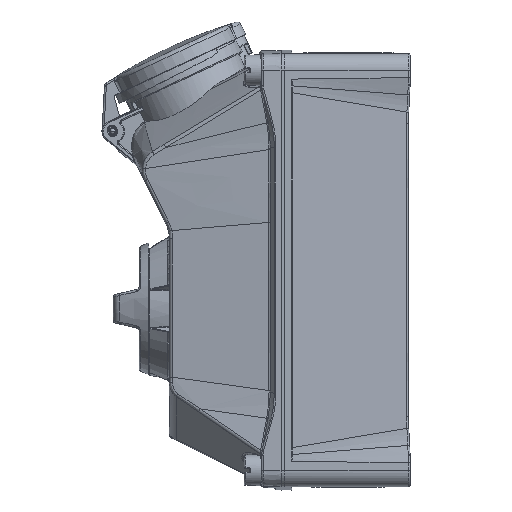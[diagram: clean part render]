
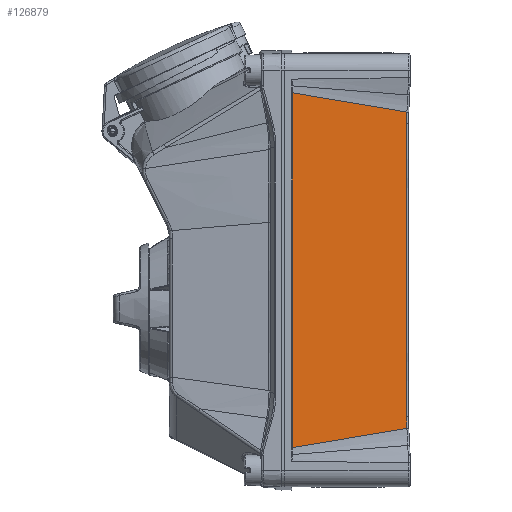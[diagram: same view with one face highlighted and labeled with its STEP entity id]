
A CAD part, left-side view. The second image highlights one B-rep face of the part: STEP entity #126879.
In plain terms, the highlighted free-form (B-spline) face has degree [5, 5] with [6, 6] control points.
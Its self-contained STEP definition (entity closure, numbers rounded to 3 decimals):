
#30424=CARTESIAN_POINT('',(-54.921,0.638,
-82.079));
#30425=CARTESIAN_POINT('',(-55.229,5.784,
-82.813));
#30426=CARTESIAN_POINT('',(-55.815,15.586,
-84.24));
#30427=CARTESIAN_POINT('',(-56.603,28.769,
-86.267));
#30428=CARTESIAN_POINT('',(-57.308,40.559,
-88.217));
#30429=CARTESIAN_POINT('',(-57.933,51.017,
-90.124));
#30430=CARTESIAN_POINT('',(-58.301,57.168,
-91.399));
#30431=CARTESIAN_POINT('',(-58.472,60.031,
-92.044));
#30433=DIRECTION('',(0.,0.,1.));
#30434=VECTOR('',#30433,184.088);
#30435=CARTESIAN_POINT('',(-58.472,60.031,
-92.044));
#30436=LINE('6204',#30435,#30434);
#30437=CARTESIAN_POINT('',(-58.472,60.031,
92.044));
#30438=CARTESIAN_POINT('',(-58.24,56.145,
91.169));
#30439=CARTESIAN_POINT('',(-57.743,47.836,
89.496));
#30440=CARTESIAN_POINT('',(-56.904,33.805,
87.066));
#30441=CARTESIAN_POINT('',(-55.97,18.186,
84.621));
#30442=CARTESIAN_POINT('',(-55.282,6.668,
82.939));
#30443=CARTESIAN_POINT('',(-54.921,0.638,
82.079));
#30445=CARTESIAN_POINT('',(-54.921,0.638,
82.079));
#30446=CARTESIAN_POINT('',(-54.923,0.671,
81.406));
#30447=CARTESIAN_POINT('',(-54.927,0.739,
80.061));
#30448=CARTESIAN_POINT('',(-54.933,0.839,
78.043));
#30449=CARTESIAN_POINT('',(-54.937,0.907,
76.698));
#30450=CARTESIAN_POINT('',(-54.939,0.94,
76.025));
#30452=DIRECTION('',(0.,0.,1.));
#30453=VECTOR('',#30452,152.05);
#30454=CARTESIAN_POINT('',(-54.939,0.94,
-76.025));
#30455=LINE('6263',#30454,#30453);
#30456=CARTESIAN_POINT('',(-54.939,0.94,
-76.025));
#30457=CARTESIAN_POINT('',(-54.937,0.907,
-76.698));
#30458=CARTESIAN_POINT('',(-54.933,0.839,
-78.043));
#30459=CARTESIAN_POINT('',(-54.927,0.739,
-80.061));
#30460=CARTESIAN_POINT('',(-54.923,0.671,
-81.406));
#30461=CARTESIAN_POINT('',(-54.921,0.638,
-82.079));
#57663=VERTEX_POINT('',#30424);
#57664=VERTEX_POINT('',#30431);
#57667=VERTEX_POINT('',#30437);
#57668=VERTEX_POINT('',#30443);
#58475=VERTEX_POINT('',#30450);
#58481=CARTESIAN_POINT('',(-54.939,0.94,
-76.025));
#58482=VERTEX_POINT('',#58481);
#126829=CARTESIAN_POINT('',(-54.883,0.,-86.5));
#126830=CARTESIAN_POINT('',(-55.606,12.1,-87.98));
#126831=CARTESIAN_POINT('',(-56.33,24.2,-89.46));
#126832=CARTESIAN_POINT('',(-57.053,36.3,-90.94));
#126833=CARTESIAN_POINT('',(-57.777,48.4,-92.42));
#126834=CARTESIAN_POINT('',(-58.5,60.5,-93.9));
#126835=CARTESIAN_POINT('',(-54.883,0.,-51.9));
#126836=CARTESIAN_POINT('',(-55.606,12.1,-52.788));
#126837=CARTESIAN_POINT('',(-56.33,24.2,-53.676));
#126838=CARTESIAN_POINT('',(-57.053,36.3,-54.564));
#126839=CARTESIAN_POINT('',(-57.777,48.4,-55.452));
#126840=CARTESIAN_POINT('',(-58.5,60.5,-56.34));
#126841=CARTESIAN_POINT('',(-54.883,0.,-17.3));
#126842=CARTESIAN_POINT('',(-55.606,12.1,-17.596));
#126843=CARTESIAN_POINT('',(-56.33,24.2,-17.892));
#126844=CARTESIAN_POINT('',(-57.053,36.3,-18.188));
#126845=CARTESIAN_POINT('',(-57.777,48.4,-18.484));
#126846=CARTESIAN_POINT('',(-58.5,60.5,-18.78));
#126847=CARTESIAN_POINT('',(-54.883,0.,17.3));
#126848=CARTESIAN_POINT('',(-55.606,12.1,17.596));
#126849=CARTESIAN_POINT('',(-56.33,24.2,17.892));
#126850=CARTESIAN_POINT('',(-57.053,36.3,18.188));
#126851=CARTESIAN_POINT('',(-57.777,48.4,18.484));
#126852=CARTESIAN_POINT('',(-58.5,60.5,18.78));
#126853=CARTESIAN_POINT('',(-54.883,0.,51.9));
#126854=CARTESIAN_POINT('',(-55.606,12.1,52.788));
#126855=CARTESIAN_POINT('',(-56.33,24.2,53.676));
#126856=CARTESIAN_POINT('',(-57.053,36.3,54.564));
#126857=CARTESIAN_POINT('',(-57.777,48.4,55.452));
#126858=CARTESIAN_POINT('',(-58.5,60.5,56.34));
#126859=CARTESIAN_POINT('',(-54.883,0.,86.5));
#126860=CARTESIAN_POINT('',(-55.606,12.1,87.98));
#126861=CARTESIAN_POINT('',(-56.33,24.2,89.46));
#126862=CARTESIAN_POINT('',(-57.053,36.3,90.94));
#126863=CARTESIAN_POINT('',(-57.777,48.4,92.42));
#126864=CARTESIAN_POINT('',(-58.5,60.5,93.9));
#126865=B_SPLINE_SURFACE_WITH_KNOTS('48',5,5,((#126829,#126830,#126831,#126832,
#126833,#126834),(#126835,#126836,#126837,#126838,#126839,#126840),(#126841,
#126842,#126843,#126844,#126845,#126846),(#126847,#126848,#126849,#126850,
#126851,#126852),(#126853,#126854,#126855,#126856,#126857,#126858),(#126859,
#126860,#126861,#126862,#126863,#126864)),.UNSPECIFIED.,.F.,.F.,.F.,(6,6),(6,6),
(0.,1.),(0.,1.),.UNSPECIFIED.);
#126866=ORIENTED_EDGE('5244',*,*,#126812,.T.);
#126868=ORIENTED_EDGE('6204',*,*,#126867,.T.);
#126870=ORIENTED_EDGE('5246',*,*,#126869,.T.);
#126872=ORIENTED_EDGE('6257',*,*,#126871,.T.);
#126874=ORIENTED_EDGE('6263',*,*,#126873,.F.);
#126876=ORIENTED_EDGE('6270',*,*,#126875,.T.);
#126877=EDGE_LOOP('48',(#126866,#126868,#126870,#126872,#126874,#126876));
#126878=FACE_OUTER_BOUND('48',#126877,.F.);
#30432=B_SPLINE_CURVE_WITH_KNOTS('5244',3,(#30424,#30425,#30426,#30427,#30428,
#30429,#30430,#30431),.UNSPECIFIED.,.F.,.F.,(4,1,1,1,1,4),(0.,0.2,0.4,
0.6,0.8,1.),.UNSPECIFIED.);
#30444=B_SPLINE_CURVE_WITH_KNOTS('5246',3,(#30437,#30438,#30439,#30440,#30441,
#30442,#30443),.UNSPECIFIED.,.F.,.F.,(4,1,1,1,4),(0.,0.25,0.5,0.75,
1.),.UNSPECIFIED.);
#30451=B_SPLINE_CURVE_WITH_KNOTS('6257',3,(#30445,#30446,#30447,#30448,#30449,
#30450),.UNSPECIFIED.,.F.,.F.,(4,1,1,4),(0.,0.333,
0.667,1.),.UNSPECIFIED.);
#30462=B_SPLINE_CURVE_WITH_KNOTS('6270',3,(#30456,#30457,#30458,#30459,#30460,
#30461),.UNSPECIFIED.,.F.,.F.,(4,1,1,4),(0.,0.333,
0.667,1.),.UNSPECIFIED.);
#126812=EDGE_CURVE('5244',#57663,#57664,#30432,.T.);
#126867=EDGE_CURVE('6204',#57664,#57667,#30436,.T.);
#126869=EDGE_CURVE('5246',#57667,#57668,#30444,.T.);
#126871=EDGE_CURVE('6257',#57668,#58475,#30451,.T.);
#126873=EDGE_CURVE('6263',#58482,#58475,#30455,.T.);
#126875=EDGE_CURVE('6270',#58482,#57663,#30462,.T.);
#126879=ADVANCED_FACE('48',(#126878),#126865,.T.);
